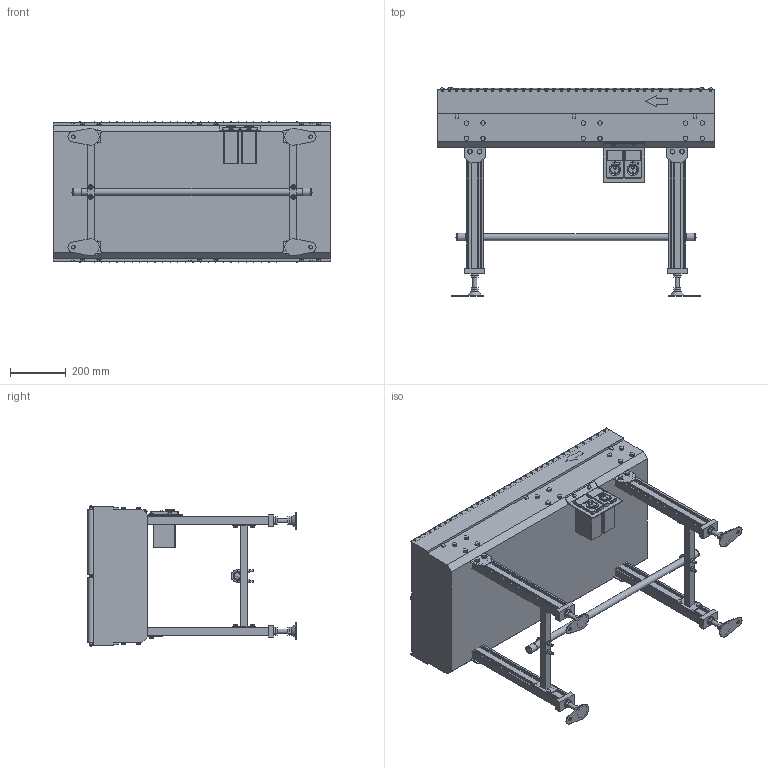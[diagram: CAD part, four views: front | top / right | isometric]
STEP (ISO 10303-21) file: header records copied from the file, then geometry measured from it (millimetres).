
FILE_DESCRIPTION (( 'STEP AP214' ), '1' );
FILE_NAME ('GA22-304x2-400-100-DC-7.5.STEP', '2024-08-08T23:09:28', ( '' ), ( '' ), 'SwSTEP 2.0', 'SolidWorks 2017', '' );
FILE_SCHEMA (( 'AUTOMOTIVE_DESIGN' ));
Length unit declared in the file: millimetre
Products named in the file (1): GA22-304x2-400-100-DC-7.5
Bounding box: 1000 x 750 x 504.9 mm (x, y, z)
Volume: 107812145.8 mm3; surface area: 3904376.4 mm2
Topology: 19 solids, 19 shells, 2075 faces, 5168 edges, 3422 vertices
Faces by surface type: plane 1498, cylinder 543, cone 18, torus 16
Full cylindrical faces by diameter (mm): 4.5 x8, 6 x70, 7 x4, 8 x140, 8.723 x8, 12.2 x2, 13 x4, 15.4 x40, 16 x8, 17 x12, 25.4 x1, 28.4 x2, 29.825 x2, 30 x4
Entity records: 59041 total; most frequent: CARTESIAN_POINT 11623, DIRECTION 9495, ORIENTED_EDGE 9354, EDGE_CURVE 4677, LINE 3319, VECTOR 3319, VERTEX_POINT 3262, AXIS2_PLACEMENT_3D 3088
